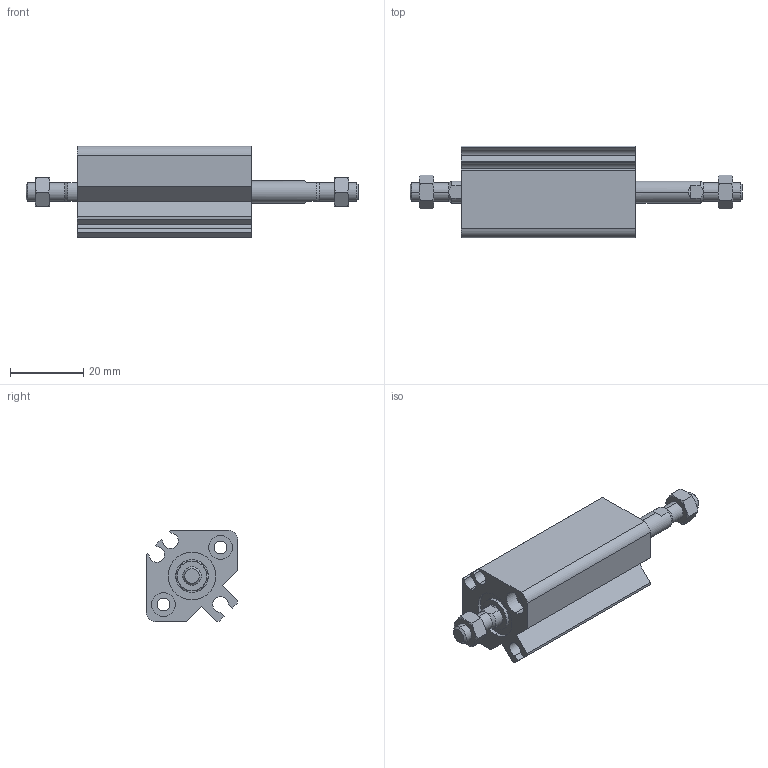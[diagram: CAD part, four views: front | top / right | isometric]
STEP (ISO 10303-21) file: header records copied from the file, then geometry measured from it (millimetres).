
FILE_DESCRIPTION (( 'STEP AP203' ), '1' );
FILE_NAME ('CCMB12-15M-P.STEP', '2020-08-10T10:56:00', ( '' ), ( '' ), 'SwSTEP 2.0', 'SolidWorks 2019', '' );
FILE_SCHEMA (( 'CONFIG_CONTROL_DESIGN' ));
Length unit declared in the file: millimetre
Products named in the file (1): CCMB12-15M-P
Bounding box: 90.4 x 25 x 25 mm (x, y, z)
Volume: 22382.4 mm3; surface area: 12343.9 mm2
Topology: 4 solids, 4 shells, 161 faces, 369 edges, 230 vertices
Faces by surface type: plane 63, cylinder 54, cone 44
Entity records: 4994 total; most frequent: CARTESIAN_POINT 1273, DIRECTION 777, ORIENTED_EDGE 738, EDGE_CURVE 369, AXIS2_PLACEMENT_3D 310, VERTEX_POINT 230, EDGE_LOOP 185, ADVANCED_FACE 161
